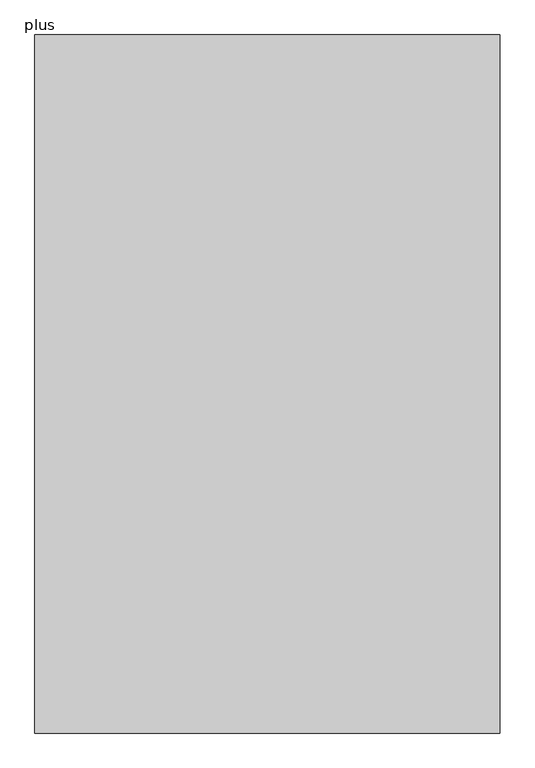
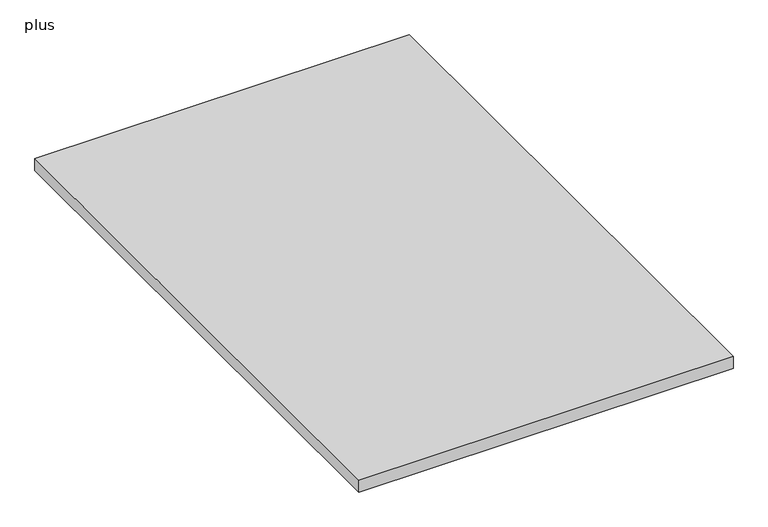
"""IFC4 building model written with IfcOpenShell, lengths in millimetres: proxy geometry, OWA Creaprint : plus."""

from ifc_helpers import new_model, si_unit, origin, origin_with_axes, place, context, project, spatial, polyline, outline, extrude, source, transform, mapped, element, save


def plus_e1e81a9f(model_context):
    return source(origin(), model_context, "Body", "SweptSolid", [
        extrude(outline(polyline([(-1033.5, 900.0), (166.5, 900.0), (166.5, -900.0), (-1033.5, -900.0), (-1033.5, 900.0)])), origin_with_axes(), (0.0, 0.0, 1.0), 40.0),
    ])


if __name__ == "__main__":
    model = new_model("IFC4")
    model_context = context("Model", 3, world=origin())
    ifc_project = project(units=[si_unit("LENGTHUNIT", "METRE", prefix="MILLI")], contexts=[model_context])
    site = spatial("IfcSite", under=ifc_project)
    building = spatial("IfcBuilding", under=site)
    placement = place(None, origin())
    plus_shape = plus_e1e81a9f(model_context)
    element("IfcBuildingElementProxy", 1, Name="OWA Creaprint : plus", ObjectType="OWA Creaprint : plus", at=placement, inside=building, context=model_context, shape_type="MappedRepresentation", body=[
        mapped(plus_shape, transform((0.0, 0.0, 0.0), x_axis=(1.0, 0.0, 0.0), y_axis=(0.0, 1.0, 0.0), z_axis=(0.0, 0.0, 1.0))),
    ])
    save(model, "model.ifc")
